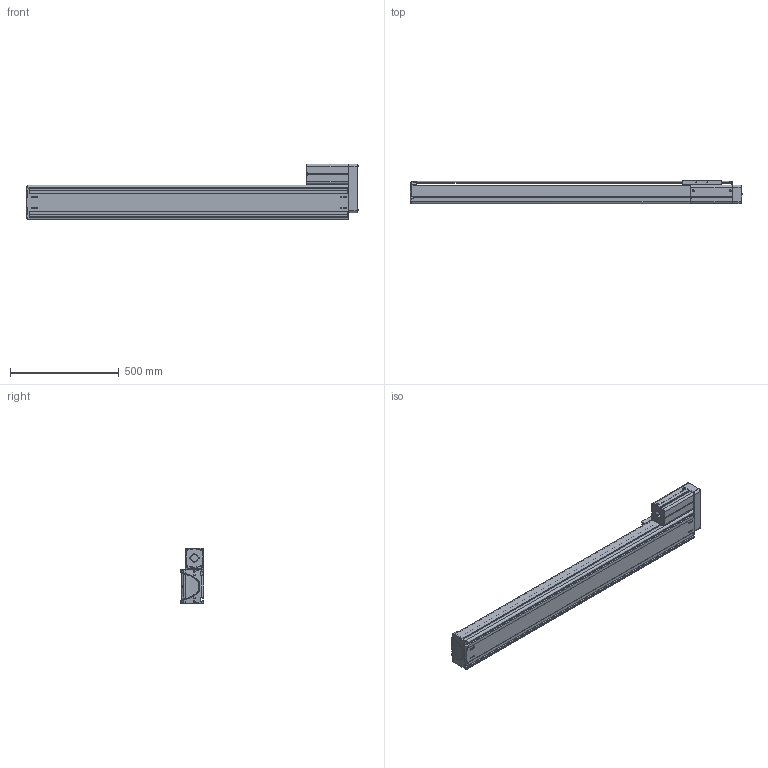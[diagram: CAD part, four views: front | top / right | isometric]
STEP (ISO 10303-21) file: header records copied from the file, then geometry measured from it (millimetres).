
FILE_DESCRIPTION((''),'2;1');
FILE_NAME('BE50F-UR-M_B-C0_IGS_PRT','2017-06-18T',(' '),(''),'PRO/ENGINEER BY PARAMETRIC TECHNOLOGY CORPORATION, 2015030','PRO/ENGINEER BY PARAMETRIC TECHNOLOGY CORPORATION, 2015030','');
FILE_SCHEMA(('CONFIG_CONTROL_DESIGN'));
Length unit declared in the file: millimetre
Products named in the file (1): BE50F-UR-M_B-C0_IGS_PRT
Bounding box: 1525.88 x 110 x 257 mm (x, y, z)
Volume: 6158336.9 mm3; surface area: 2547255.7 mm2
Topology: 6 solids, 150 shells, 2288 faces, 6260 edges, 4100 vertices
Faces by surface type: plane 1012, cylinder 1000, cone 137, torus 59, bspline 48, sphere 32
Entity records: 76155 total; most frequent: CARTESIAN_POINT 17561, DIRECTION 12213, ORIENTED_EDGE 11920, EDGE_CURVE 6220, AXIS2_PLACEMENT_3D 4365, VERTEX_POINT 4095, VECTOR 3483, LINE 3483
